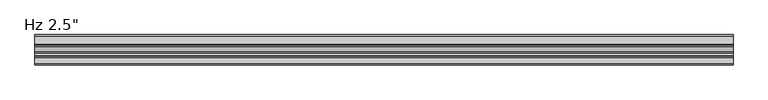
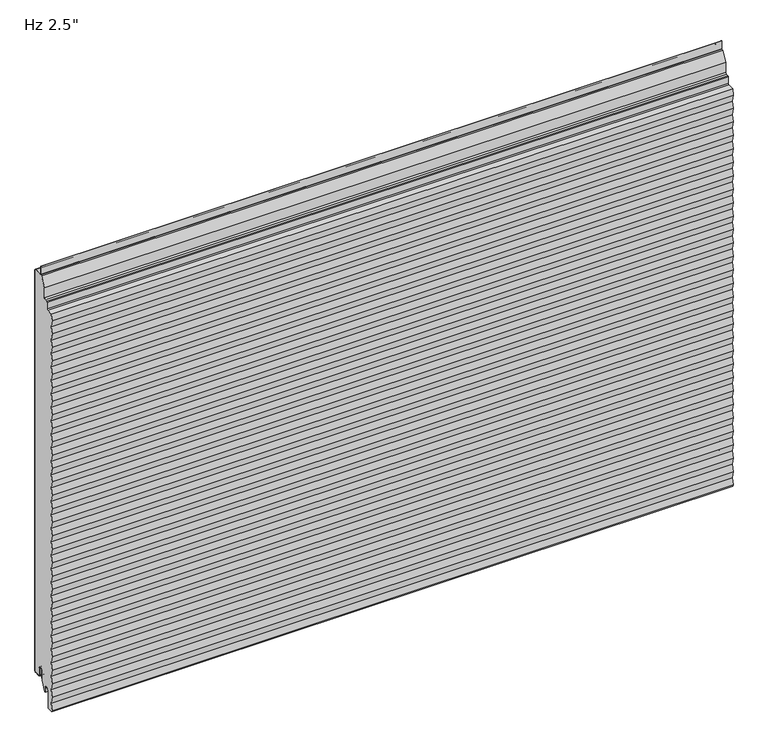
"""IFC4 building model written with IfcOpenShell, lengths in millimetres: plate geometry."""

from ifc_helpers import new_model, si_unit, point, frame, frame_2d, origin, place, context, project, spatial, polyline, circle_curve, trimmed, segment, composite_curve, outline, extrude, source, transform, mapped, element, save


def plate_4d02904b(model_context):
    return source(origin(), model_context, "Body", "SweptSolid", [
        extrude(outline(composite_curve([segment(trimmed(circle_curve(frame_2d((-21.43125, 19.05)), 4.96875), [point((-16.4625, 19.05))], [point((-26.4, 19.05))], True, "CARTESIAN"), True, "CONTINUOUS"), segment(polyline([(-26.4, 19.05), (-26.4, -3.1323422), (-36.5326309, -23.01875), (-38.1, -23.01875), (-38.1, -13.5080174), (-38.89375, -13.5080174), (-38.6875, -11.9205174)]), True, "CONTINUOUS"), segment(trimmed(circle_curve(frame_2d((-43.65625, -11.9205174)), 4.96875), [point((-38.6875, -11.9205174))], [point((-48.625, -11.9205174))], True, "CARTESIAN"), True, "CONTINUOUS"), segment(polyline([(-48.625, -11.9205174), (-48.625, -50.1038221)]), True, "CONTINUOUS"), segment(trimmed(circle_curve(frame_2d((-50.00625, -50.1038221)), 1.38125), [point((-48.625, -50.1038221))], [point((-49.933961, -51.4831791))], False, "CARTESIAN"), True, "CONTINUOUS"), segment(polyline([(-49.933961, -51.4831791), (-63.1062471, -52.1735094), (-63.6378194, -48.8511825), (-61.1994194, -33.6111825), (-63.6378194, -18.3711825), (-61.1994194, -3.1311825), (-63.6378194, 12.1088175), (-61.1994194, 27.3488175), (-63.6378194, 42.5888175), (-61.1994194, 57.8288175), (-63.6378194, 73.0688175), (-61.1994194, 88.3088175), (-63.6378194, 103.5488175), (-61.1994194, 118.7888175), (-63.6378194, 134.0288175), (-61.1994194, 149.2688175), (-63.6378194, 164.5088175), (-61.1994194, 179.7488175), (-63.6378194, 194.9888175), (-61.1994194, 210.2288175), (-63.6378194, 225.4688175), (-61.1994194, 240.7088175), (-63.6378194, 255.9488175), (-61.1994194, 271.1888175), (-63.6378194, 286.4288175), (-61.1994194, 301.6688175), (-63.6378194, 316.9088175), (-61.1994194, 332.1488175), (-63.6378194, 347.3888175), (-61.1994194, 362.6288175), (-63.6378194, 377.8688175), (-61.1994194, 393.1088175), (-63.6378194, 408.3488175), (-61.1994194, 423.5888175), (-63.6378194, 438.8288175), (-61.1994194, 454.0688175), (-63.6378194, 469.3088175), (-61.1994194, 484.5488175), (-63.6378194, 499.7888175), (-61.1994194, 515.0288175), (-63.6378194, 530.2688175), (-61.1994194, 545.5088175), (-63.6378194, 560.7488175), (-61.1994194, 575.9888175), (-63.6378194, 591.2288175), (-61.1994194, 606.4688175), (-63.6378194, 621.7088175), (-61.1994194, 636.9488175), (-63.6378194, 652.1888175), (-61.1994194, 667.4288175), (-63.6378194, 682.6688175), (-61.1994194, 697.9088175), (-63.6378194, 713.1488175), (-61.1994194, 728.3888175), (-63.6378194, 743.6288175), (-61.1994194, 758.8688175), (-63.6378194, 774.1088175), (-61.1994194, 789.3488175), (-63.6378194, 804.5888175), (-61.1994194, 819.8288175), (-63.6054086, 834.86625), (-61.5673048, 847.6043985), (-47.4895807, 848.3421807)]), True, "CONTINUOUS"), segment(trimmed(circle_curve(frame_2d((-47.625, 850.9261347)), 2.5875), [point((-47.4895807, 848.3421807))], [point((-45.0375, 850.9261347))], True, "CARTESIAN"), True, "CONTINUOUS"), segment(polyline([(-45.0375, 850.9261347), (-45.0375, 865.0824411)]), True, "CONTINUOUS"), segment(trimmed(circle_curve(frame_2d((-43.65625, 865.0824411)), 1.38125), [point((-45.0375, 865.0824411))], [point((-43.728539, 866.4617981))], False, "CARTESIAN"), True, "CONTINUOUS"), segment(polyline([(-43.728539, 866.4617981), (-37.9645807, 866.7638744)]), True, "CONTINUOUS"), segment(trimmed(circle_curve(frame_2d((-38.1, 869.3478283)), 2.5875), [point((-37.9645807, 866.7638744))], [point((-35.5125, 869.3478283))], True, "CARTESIAN"), True, "CONTINUOUS"), segment(polyline([(-35.5125, 869.3478283), (-35.5125, 891.7892934), (-24.9057308, 912.60625), (-2.38125, 912.60625)]), True, "CONTINUOUS"), segment(trimmed(circle_curve(frame_2d((-2.38125, 911.225)), 1.38125), [point((-2.38125, 912.60625))], [point((-1.0, 911.225))], False, "CARTESIAN"), True, "CONTINUOUS"), segment(polyline([(-1.0, 911.225), (-1.0, 3.175)]), True, "CONTINUOUS"), segment(trimmed(circle_curve(frame_2d((-2.38125, 3.175)), 1.38125), [point((-1.0, 3.175))], [point((-2.38125, 1.79375))], False, "CARTESIAN"), True, "CONTINUOUS"), segment(polyline([(-2.38125, 1.79375), (-15.08125, 1.79375)]), True, "CONTINUOUS"), segment(trimmed(circle_curve(frame_2d((-15.08125, 3.175)), 1.38125), [point((-15.08125, 1.79375))], [point((-16.4625, 3.175))], False, "CARTESIAN"), True, "CONTINUOUS"), segment(polyline([(-16.4625, 3.175), (-16.4625, 19.05)]), True, "CONTINUOUS")], self_intersect=False)), frame((-730.0, 0.0, 0.0), z_axis=(1.0, 0.0, 0.0), x_axis=(0.0, 1.0, 0.0)), (0.0, 0.0, 1.0), 1460.0),
        extrude(outline(composite_curve([segment(polyline([(-25.4, 0.79375), (-26.4, 0.79375), (-26.4, 19.05)]), True, "CONTINUOUS"), segment(trimmed(circle_curve(frame_2d((-21.43125, 19.05)), 4.96875), [point((-26.4, 19.05))], [point((-16.4625, 19.05))], False, "CARTESIAN"), True, "CONTINUOUS"), segment(polyline([(-16.4625, 19.05), (-16.4625, 3.175)]), True, "CONTINUOUS"), segment(trimmed(circle_curve(frame_2d((-15.08125, 3.175)), 1.38125), [point((-16.4625, 3.175))], [point((-15.08125, 1.79375))], True, "CARTESIAN"), True, "CONTINUOUS"), segment(polyline([(-15.08125, 1.79375), (-2.38125, 1.79375)]), True, "CONTINUOUS"), segment(trimmed(circle_curve(frame_2d((-2.38125, 3.175)), 1.38125), [point((-2.38125, 1.79375))], [point((-1.0, 3.175))], True, "CARTESIAN"), True, "CONTINUOUS"), segment(polyline([(-1.0, 3.175), (-1.0, 911.225)]), True, "CONTINUOUS"), segment(trimmed(circle_curve(frame_2d((-2.38125, 911.225)), 1.38125), [point((-1.0, 911.225))], [point((-2.38125, 912.60625))], True, "CARTESIAN"), True, "CONTINUOUS"), segment(polyline([(-2.38125, 912.60625), (-19.446875, 912.60625)]), True, "CONTINUOUS"), segment(trimmed(circle_curve(frame_2d((-19.446875, 915.19375)), 2.5875), [point((-19.446875, 912.60625))], [point((-22.034375, 915.19375))], False, "CARTESIAN"), True, "CONTINUOUS"), segment(polyline([(-22.034375, 915.19375), (-22.034375, 932.65625), (-21.034375, 932.65625), (-21.034375, 915.19375)]), True, "CONTINUOUS"), segment(trimmed(circle_curve(frame_2d((-19.446875, 915.19375)), 1.5875), [point((-21.034375, 915.19375))], [point((-19.446875, 913.60625))], True, "CARTESIAN"), True, "CONTINUOUS"), segment(polyline([(-19.446875, 913.60625), (-2.38125, 913.60625)]), True, "CONTINUOUS"), segment(trimmed(circle_curve(frame_2d((-2.38125, 911.225)), 2.38125), [point((-2.38125, 913.60625))], [point((0.0, 911.225))], False, "CARTESIAN"), True, "CONTINUOUS"), segment(polyline([(0.0, 911.225), (0.0, 3.175)]), True, "CONTINUOUS"), segment(trimmed(circle_curve(frame_2d((-2.38125, 3.175)), 2.38125), [point((0.0, 3.175))], [point((-2.38125, 0.79375))], False, "CARTESIAN"), True, "CONTINUOUS"), segment(polyline([(-2.38125, 0.79375), (-15.08125, 0.79375)]), True, "CONTINUOUS"), segment(trimmed(circle_curve(frame_2d((-15.08125, 3.175)), 2.38125), [point((-15.08125, 0.79375))], [point((-17.4625, 3.175))], False, "CARTESIAN"), True, "CONTINUOUS"), segment(polyline([(-17.4625, 3.175), (-17.4625, 19.05)]), True, "CONTINUOUS"), segment(trimmed(circle_curve(frame_2d((-21.43125, 19.05)), 3.96875), [point((-17.4625, 19.05))], [point((-25.4, 19.05))], True, "CARTESIAN"), True, "CONTINUOUS"), segment(polyline([(-25.4, 19.05), (-25.4, 0.79375)]), True, "CONTINUOUS")], self_intersect=False)), frame((-730.0, 0.0, 0.0), z_axis=(1.0, 0.0, 0.0), x_axis=(0.0, 1.0, 0.0)), (0.0, 0.0, 1.0), 1460.0),
    ])


if __name__ == "__main__":
    model = new_model("IFC4")
    model_context = context("Model", 3, world=origin())
    ifc_project = project(units=[si_unit("LENGTHUNIT", "METRE", prefix="MILLI")], contexts=[model_context])
    site = spatial("IfcSite", under=ifc_project)
    building = spatial("IfcBuilding", under=site)
    placement = place(None, origin())
    plate_shape = plate_4d02904b(model_context)
    element("IfcPlate", 1, ObjectType="KIP-36-DWHR-R19-CP-Hz-S : Hz 2.5\"", at=placement, inside=building, context=model_context, shape_type="MappedRepresentation", body=[
        mapped(plate_shape, transform((0.0, 0.0, 0.0), x_axis=(1.0, 0.0, 0.0), y_axis=(0.0, 1.0, 0.0), z_axis=(0.0, 0.0, 1.0))),
    ])
    save(model, "model.ifc")
